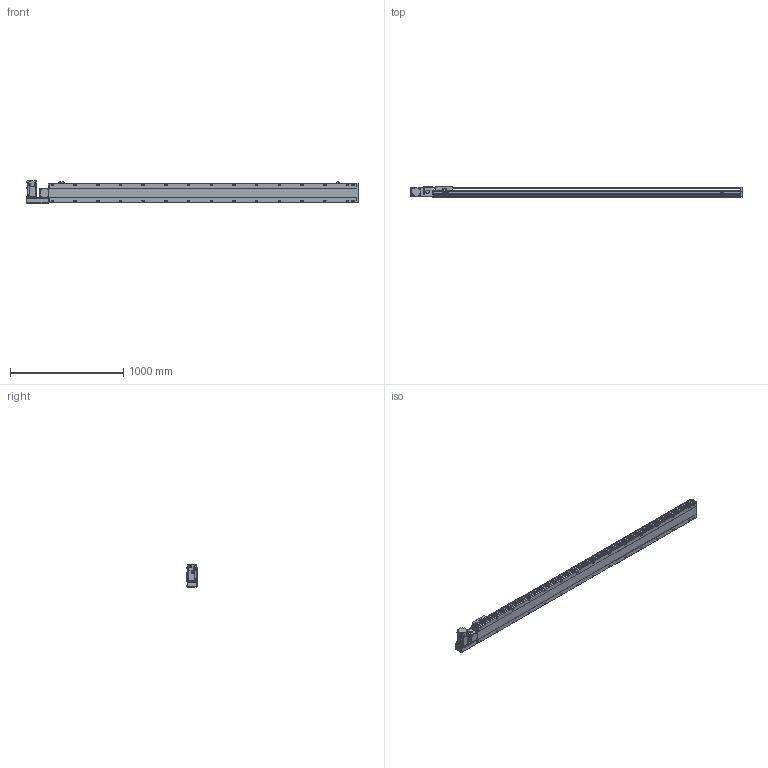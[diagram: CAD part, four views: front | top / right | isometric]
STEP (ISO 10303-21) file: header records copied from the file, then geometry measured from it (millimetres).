
FILE_DESCRIPTION( ( 'STEP AP214' ), '1' );
FILE_NAME( 'x:/temp/worker_3/temp/exporttempdir_5796_124_3roKB/format_0/PBS170-P40-S2450-L-T75-C1-N(0).stp', '2022-06-07T06:58:45', ( 'License CC BY-ND 4.0' ), ( 'CADENAS' ), ' ', 'PARTsolutions', ' ' );
FILE_SCHEMA( ( 'AUTOMOTIVE_DESIGN { 1 0 10303 214 1 1 1 1 }' ) );
Length unit declared in the file: millimetre
Products named in the file (7): PBS170-P40-S2450-L-T75-C1-N(0); _PBS170-S2450()_body; _PBS170T-L_motors; _T75-p1; _PBS170_sliser; _PBS170_plant; _PBS170_sensor
Assembly tree (8 placements, depth 2):
  PBS170-P40-S2450-L-T75-C1-N(0)
    _PBS170-S2450()_body
    _PBS170T-L_motors
    _T75-p1
    _PBS170_sliser
    _PBS170_plant
    _PBS170_sensor  x3
Bounding box: 2928 x 97 x 197.3 mm (x, y, z)
Volume: 21319367.1 mm3; surface area: 2687759.7 mm2
Topology: 8 solids, 8 shells, 1194 faces, 3155 edges, 2056 vertices
Faces by surface type: plane 729, cylinder 395, cone 60, sphere 8, torus 2
Full cylindrical faces by diameter (mm): 3.242 x4, 4 x2, 4.4 x4, 4.5 x6, 4.917 x4, 6 x9, 6.647 x38, 7 x2, 7.5 x4, 8 x8, 8.5 x30, 10 x4, 10.5 x30, 11 x2, 30 x2, 40 x1, 70 x1
Entity records: 44234 total; most frequent: CARTESIAN_POINT 7397, DIRECTION 5790, ORIENTED_EDGE 5448, EDGE_CURVE 2724, AXIS2_PLACEMENT_3D 2047, VERTEX_POINT 1898, LINE 1696, VECTOR 1696
